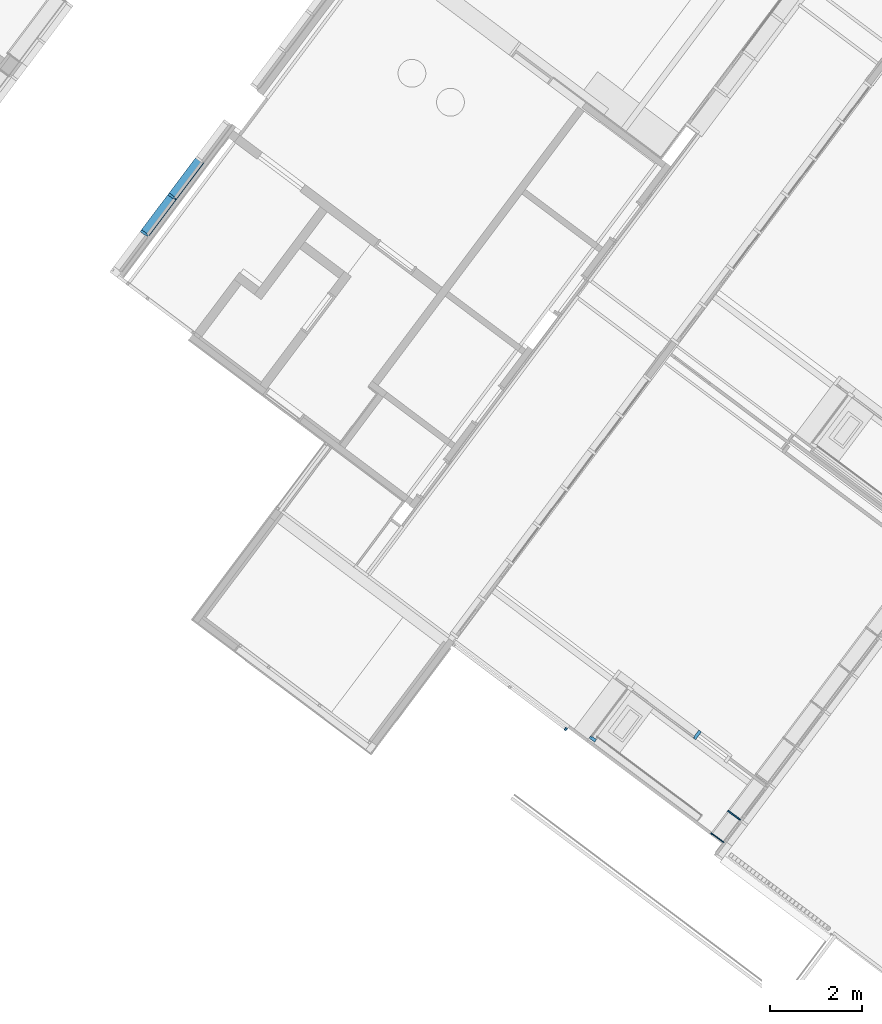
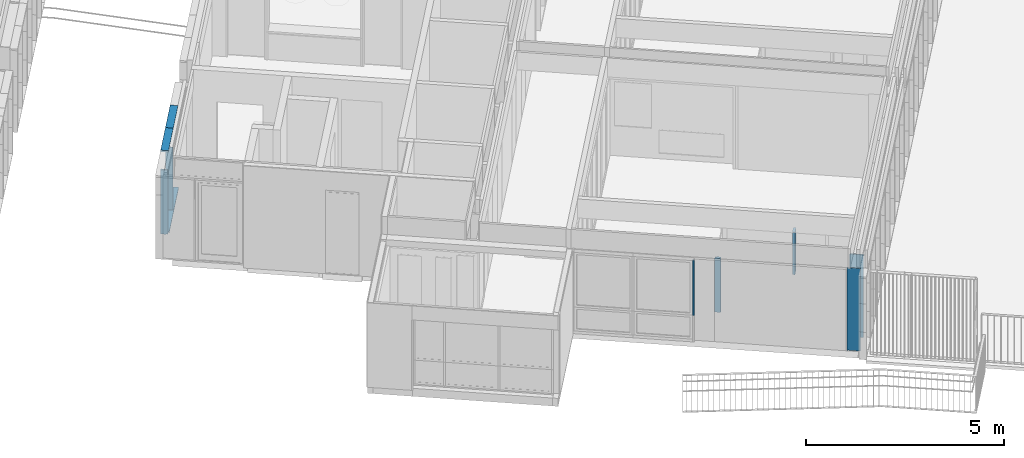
# One storey, part 9 of 243: 11 members, 5 elements without a shape of their own.
"""IFC2X3 building model written with IfcOpenShell, lengths in metres."""

from ifc_helpers import new_model, entity, si_unit, converted_unit, derived_unit, direction, frame, frame_2d, origin, place, context, subcontext, project, spatial, polyline, circle_curve, parameter, trimmed, segment, composite_curve, rectangle, outline, extrude, source, transform, mapped, material, type_object, type_shapes, element, aggregate, save


model = new_model("IFC2X3")

# Units and contexts
model_context = context("Model", 3, precision=1e-05, world=origin(), true_north=direction((6.123031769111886e-17, 1.0)))
body_context = subcontext(model_context, "Body", "Model", "MODEL_VIEW")
ifc_project = project(units=[si_unit("LENGTHUNIT", "METRE"), si_unit("AREAUNIT", "SQUARE_METRE"), si_unit("VOLUMEUNIT", "CUBIC_METRE"), converted_unit("PLANEANGLEUNIT", "DEGREE", entity("IfcRatioMeasure", 0.017453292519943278), si_unit("PLANEANGLEUNIT", "RADIAN"), dimensions=[0, 0, 0, 0, 0, 0, 0]), si_unit("MASSUNIT", "GRAM", prefix="KILO"), derived_unit("MASSDENSITYUNIT", [(si_unit("MASSUNIT", "GRAM", prefix="KILO"), 1), (si_unit("LENGTHUNIT", "METRE"), -3)]), derived_unit("IONCONCENTRATIONUNIT", [(si_unit("MASSUNIT", "GRAM", prefix="KILO"), 1), (si_unit("LENGTHUNIT", "METRE"), -3)]), derived_unit("MOMENTOFINERTIAUNIT", [(si_unit("LENGTHUNIT", "METRE"), 4)]), si_unit("TIMEUNIT", "SECOND"), si_unit("FREQUENCYUNIT", "HERTZ"), si_unit("THERMODYNAMICTEMPERATUREUNIT", "DEGREE_CELSIUS"), derived_unit("THERMALTRANSMITTANCEUNIT", [(si_unit("MASSUNIT", "GRAM", prefix="KILO"), 1), (si_unit("THERMODYNAMICTEMPERATUREUNIT", "KELVIN"), -1), (si_unit("TIMEUNIT", "SECOND"), -3)]), derived_unit("THERMALCONDUCTANCEUNIT", [(si_unit("MASSUNIT", "GRAM", prefix="KILO"), 1), (si_unit("THERMODYNAMICTEMPERATUREUNIT", "KELVIN"), -1), (si_unit("TIMEUNIT", "SECOND"), -3), (si_unit("LENGTHUNIT", "METRE"), 1)]), derived_unit("VOLUMETRICFLOWRATEUNIT", [(si_unit("LENGTHUNIT", "METRE"), 3), (si_unit("TIMEUNIT", "SECOND"), -1)]), derived_unit("MASSFLOWRATEUNIT", [(si_unit("MASSUNIT", "GRAM", prefix="KILO"), 1), (si_unit("TIMEUNIT", "SECOND"), -1)]), derived_unit("ROTATIONALFREQUENCYUNIT", [(si_unit("TIMEUNIT", "SECOND"), -1)]), si_unit("ELECTRICCURRENTUNIT", "AMPERE"), si_unit("ELECTRICVOLTAGEUNIT", "VOLT"), si_unit("POWERUNIT", "WATT"), si_unit("FORCEUNIT", "NEWTON", prefix="KILO"), si_unit("ILLUMINANCEUNIT", "LUX"), si_unit("LUMINOUSFLUXUNIT", "LUMEN"), si_unit("LUMINOUSINTENSITYUNIT", "CANDELA"), derived_unit("USERDEFINED", [(si_unit("MASSUNIT", "GRAM", prefix="KILO"), -1), (si_unit("LENGTHUNIT", "METRE"), -2), (si_unit("TIMEUNIT", "SECOND"), 3), (si_unit("LUMINOUSFLUXUNIT", "LUMEN"), 1)]), derived_unit("USERDEFINED", [(si_unit("MASSUNIT", "GRAM", prefix="KILO"), 1), (si_unit("TIMEUNIT", "SECOND"), -3), (si_unit("LENGTHUNIT", "METRE"), 3), (si_unit("ELECTRICCURRENTUNIT", "AMPERE"), -2)]), derived_unit("SOUNDPOWERUNIT", [(si_unit("MASSUNIT", "GRAM", prefix="KILO"), 1), (si_unit("TIMEUNIT", "SECOND"), -3), (si_unit("LENGTHUNIT", "METRE"), 2)]), derived_unit("SOUNDPRESSUREUNIT", [(si_unit("MASSUNIT", "GRAM", prefix="KILO"), 1), (si_unit("LENGTHUNIT", "METRE"), -1), (si_unit("TIMEUNIT", "SECOND"), -2)]), derived_unit("LINEARVELOCITYUNIT", [(si_unit("LENGTHUNIT", "METRE"), 1), (si_unit("TIMEUNIT", "SECOND"), -1)]), si_unit("PRESSUREUNIT", "PASCAL"), derived_unit("USERDEFINED", [(si_unit("MASSUNIT", "GRAM", prefix="KILO"), 1), (si_unit("LENGTHUNIT", "METRE"), -2), (si_unit("TIMEUNIT", "SECOND"), -2)]), derived_unit("LINEARFORCEUNIT", [(si_unit("MASSUNIT", "GRAM", prefix="KILO"), 1), (si_unit("TIMEUNIT", "SECOND"), -2)]), derived_unit("PLANARFORCEUNIT", [(si_unit("MASSUNIT", "GRAM", prefix="KILO"), 1), (si_unit("LENGTHUNIT", "METRE"), -1), (si_unit("TIMEUNIT", "SECOND"), -2)]), derived_unit("SPECIFICHEATCAPACITYUNIT", [(si_unit("THERMODYNAMICTEMPERATUREUNIT", "KELVIN"), -1), (si_unit("LENGTHUNIT", "METRE"), 2), (si_unit("TIMEUNIT", "SECOND"), -2)]), derived_unit("HEATINGVALUEUNIT", [(si_unit("LENGTHUNIT", "METRE"), 2), (si_unit("TIMEUNIT", "SECOND"), -2)]), derived_unit("VAPORPERMEABILITYUNIT", [(si_unit("LENGTHUNIT", "METRE"), -1), (si_unit("TIMEUNIT", "SECOND"), 1)]), derived_unit("DYNAMICVISCOSITYUNIT", [(si_unit("MASSUNIT", "GRAM", prefix="KILO"), 1), (si_unit("TIMEUNIT", "SECOND"), -1), (si_unit("LENGTHUNIT", "METRE"), -1)]), derived_unit("THERMALEXPANSIONCOEFFICIENTUNIT", [(si_unit("THERMODYNAMICTEMPERATUREUNIT", "KELVIN"), -1)]), derived_unit("MODULUSOFELASTICITYUNIT", [(si_unit("MASSUNIT", "GRAM", prefix="KILO"), 1), (si_unit("LENGTHUNIT", "METRE"), -1), (si_unit("TIMEUNIT", "SECOND"), -2)]), derived_unit("ISOTHERMALMOISTURECAPACITYUNIT", [(si_unit("LENGTHUNIT", "METRE"), 3), (si_unit("MASSUNIT", "GRAM", prefix="KILO"), -1)]), derived_unit("MOISTUREDIFFUSIVITYUNIT", [(si_unit("TIMEUNIT", "SECOND"), -1), (si_unit("LENGTHUNIT", "METRE"), 2)])], contexts=[model_context])

# Site, building, storey
site_placement = place(None, frame((0.0, 0.0, 235.0), z_axis=(0.0, 0.0, 1.0), x_axis=(-0.7996477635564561, 0.6004693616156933, 0.0)))
site = spatial("IfcSite", under=ifc_project, at=site_placement, Name="Default", CompositionType="ELEMENT")
building_placement = place(site_placement, origin())
building = spatial("IfcBuilding", under=site, at=building_placement, CompositionType="ELEMENT")
storey_placement = place(building_placement, origin())
storey = spatial("IfcBuildingStorey", under=building, at=storey_placement, Name="P0- Escola", CompositionType="ELEMENT", Elevation=0.0)

# Curtain wall, member
curtain_wall_type_1 = type_object("IfcCurtainWallType", Name="Muro cortina:MC- INT- k1", PredefinedType="NOTDEFINED")
curtain_wall_1_placement = place(storey_placement, origin())
curtain_wall_1 = element("IfcCurtainWall", 1, at=curtain_wall_1_placement, inside=storey, type_object=curtain_wall_type_1, Name="Muro cortina:MC- INT- k1", ObjectType="Muro cortina:MC- INT- k1")
ifc_material_1 = material(Name="_Fusta massisa- T1")
member_type_1 = type_object("IfcMemberType", Name="Montante rectangular:MC- Fusta- 21,4x7 cm- Esquerra- Bany infantil", PredefinedType="MULLION", material=ifc_material_1)
shared_shape_1 = source(origin(), body_context, "Body", "SweptSolid", [
    extrude(outline(polyline([(-0.06649999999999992, -0.02249999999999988), (-0.05049999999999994, -0.02249999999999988), (-0.050499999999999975, -0.0024999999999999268), (-0.030499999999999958, -0.002499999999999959), (-0.030499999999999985, -0.022499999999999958), (0.14749999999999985, -0.022500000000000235), (0.14749999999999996, 0.04749999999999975), (-0.06650000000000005, 0.04750000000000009), (-0.06649999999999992, -0.02249999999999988)])), frame((-0.012500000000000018, -0.04049999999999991, -1.304999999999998), z_axis=(0.0, 0.0, 1.0), x_axis=(0.0, -1.0, 0.0)), (0.0, 0.0, 1.0), 1.304999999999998),
])
type_shapes(member_type_1, [shared_shape_1])
member_1_placement = place(curtain_wall_1_placement, frame((7.804147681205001, -19.827191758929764, 1.2000000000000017), z_axis=(0.0, 0.0, -1.0), x_axis=(-1.0, 0.0, 0.0)))
member_1 = element("IfcMember", 2, at=member_1_placement, type_object=member_type_1, material=ifc_material_1, Name="Montante rectangular:MC- Fusta- 21,4x7 cm- Esquerra- Bany infantil", ObjectType="Montante rectangular:MC- Fusta- 21,4x7 cm- Esquerra- Bany infantil", context=body_context, shape_type="MappedRepresentation", body=[
    mapped(shared_shape_1, transform((0.0, 0.0, 0.0), scale=1.0)),
])
aggregate(curtain_wall_1, [member_1])

curtain_wall_type_2 = type_object("IfcCurtainWallType", Name="Muro cortina:MC- INT- k1", PredefinedType="NOTDEFINED")
curtain_wall_2_placement = place(storey_placement, origin())
curtain_wall_2 = element("IfcCurtainWall", 3, at=curtain_wall_2_placement, inside=storey, type_object=curtain_wall_type_2, Name="Muro cortina:MC- INT- k1", ObjectType="Muro cortina:MC- INT- k1")
member_type_2 = type_object("IfcMemberType", Name="Montante rectangular:MC- Fusta- 15x7- Esquerra", PredefinedType="MULLION", material=ifc_material_1)
shared_shape_2 = source(origin(), body_context, "Body", "SweptSolid", [
    extrude(outline(polyline([(-0.050499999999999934, -0.0224999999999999), (-0.034499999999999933, -0.0224999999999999), (-0.03449999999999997, -0.0024999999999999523), (-0.014499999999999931, -0.0024999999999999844), (-0.014499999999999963, -0.022499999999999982), (0.09949999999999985, -0.02250000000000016), (0.09949999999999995, 0.04749999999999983), (-0.05050000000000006, 0.04750000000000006), (-0.050499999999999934, -0.0224999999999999)])), frame((-0.04749999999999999, -0.024499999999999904, -1.665), z_axis=(0.0, 0.0, 1.0), x_axis=(0.0, -1.0, 0.0)), (0.0, 0.0, 1.0), 1.6649999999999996),
])
type_shapes(member_type_2, [shared_shape_2])
member_2_placement = place(curtain_wall_2_placement, frame((9.619147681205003, -18.440191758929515, 0.8399999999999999), z_axis=(0.0, 0.0, -1.0), x_axis=(0.0, 1.0, 0.0)))
member_2 = element("IfcMember", 4, at=member_2_placement, type_object=member_type_2, material=ifc_material_1, Name="Montante rectangular:MC- Fusta- 15x7- Esquerra", ObjectType="Montante rectangular:MC- Fusta- 15x7- Esquerra", context=body_context, shape_type="MappedRepresentation", body=[
    mapped(shared_shape_2, transform((0.0, 0.0, 0.0), scale=1.0)),
])
aggregate(curtain_wall_2, [member_2])

# Curtain wall, members
curtain_wall_type_3 = type_object("IfcCurtainWallType", Name="Muro cortina:MC- INT- k7- Aules infantil", PredefinedType="NOTDEFINED")
curtain_wall_3_placement = place(storey_placement, origin())
curtain_wall_3 = element("IfcCurtainWall", 5, at=curtain_wall_3_placement, inside=storey, type_object=curtain_wall_type_3, Name="Muro cortina:MC- INT- k7- Aules infantil", ObjectType="Muro cortina:MC- INT- k7- Aules infantil")
member_type_3 = type_object("IfcMemberType", Name="Montante rectangular:MC- Fusta- 35x3 cm- Pati aules- Remat esquerra", PredefinedType="MULLION", material=ifc_material_1)
shared_shape_3 = source(origin(), body_context, "Body", "SweptSolid", [
    extrude(outline(polyline([(-0.22000000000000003, -0.01666666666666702), (0.12500000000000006, -0.01666666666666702), (0.12499999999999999, 0.013333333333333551), (0.09500000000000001, 0.013333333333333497), (0.09499999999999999, 0.003333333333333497), (-0.22, 0.003333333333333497), (-0.22000000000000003, -0.01666666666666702)])), frame((-0.013333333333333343, 0.030000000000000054, -2.5399999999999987), z_axis=(0.0, 0.0, 1.0), x_axis=(0.0, -1.0, 0.0)), (0.0, 0.0, 1.0), 2.5399999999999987),
])
type_shapes(member_type_3, [shared_shape_3])
member_3_placement = place(curtain_wall_3_placement, frame((6.185147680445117, -18.362691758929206, 2.5399999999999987), z_axis=(0.0, 0.0, 1.0), x_axis=(0.0, 1.0, 0.0)))
member_3 = element("IfcMember", 6, at=member_3_placement, type_object=member_type_3, material=ifc_material_1, Name="Montante rectangular:MC- Fusta- 35x3 cm- Pati aules- Remat esquerra", ObjectType="Montante rectangular:MC- Fusta- 35x3 cm- Pati aules- Remat esquerra", context=body_context, shape_type="MappedRepresentation", body=[
    mapped(shared_shape_3, transform((0.0, 0.0, 0.0), scale=1.0)),
])
member_type_4 = type_object("IfcMemberType", Name="Montante rectangular:MC- Fusta- 35x3 cm- Centre", PredefinedType="MULLION", material=ifc_material_1)
shared_shape_4 = source(origin(), body_context, "Body", "SweptSolid", [
    extrude(rectangle(XDim=0.3450000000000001, YDim=0.030000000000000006, at=frame_2d((0.0, 1.3964523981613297e-16), x_axis=(1.0, 0.0))), frame((0.0, 0.07750000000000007, -2.5399999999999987), z_axis=(0.0, 0.0, 1.0), x_axis=(0.0, -1.0, 0.0)), (0.0, 0.0, 1.0), 2.5399999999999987),
])
type_shapes(member_type_4, [shared_shape_4])
member_4_placement = place(curtain_wall_3_placement, frame((6.185147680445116, -18.990191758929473, 0.0), z_axis=(0.0, 0.0, -1.0), x_axis=(0.0, -1.0, 0.0)))
member_4 = element("IfcMember", 7, at=member_4_placement, type_object=member_type_4, material=ifc_material_1, Name="Montante rectangular:MC- Fusta- 35x3 cm- Centre", ObjectType="Montante rectangular:MC- Fusta- 35x3 cm- Centre", context=body_context, shape_type="MappedRepresentation", body=[
    mapped(shared_shape_4, transform((0.0, 0.0, 0.0), scale=1.0)),
])
aggregate(curtain_wall_3, [member_3, member_4])

curtain_wall_type_4 = type_object("IfcCurtainWallType", Name="Muro cortina:MC- EXT- MC2", PredefinedType="NOTDEFINED")
curtain_wall_4_placement = place(storey_placement, origin())
curtain_wall_4 = element("IfcCurtainWall", 8, at=curtain_wall_4_placement, inside=storey, type_object=curtain_wall_type_4, Name="Muro cortina:MC- EXT- MC2", ObjectType="Muro cortina:MC- EXT- MC2")
ifc_material_2 = material(Name="_Alumini- T1- Perfil")
member_type_5 = type_object("IfcMemberType", Name="Montante rectangular:MC- Alu- 140x52,5 cm- Fa patis- inferior", PredefinedType="MULLION", material=ifc_material_2)
shared_shape_5 = source(origin(), body_context, "Body", "SweptSolid", [
    extrude(outline(composite_curve([segment(polyline([(-0.144167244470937, -0.025867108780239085), (-0.12786724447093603, -0.02586710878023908)]), True, "CONTINUOUS"), segment(polyline([(-0.12786724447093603, -0.02586710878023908), (-0.12786724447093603, -0.023167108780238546)]), True, "CONTINUOUS"), segment(polyline([(-0.12786724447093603, -0.023167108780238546), (-0.0678672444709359, -0.023167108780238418)]), True, "CONTINUOUS"), segment(polyline([(-0.0678672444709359, -0.023167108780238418), (0.07031215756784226, -0.010722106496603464)]), True, "CONTINUOUS"), segment(trimmed(circle_curve(frame_2d((0.07013275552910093, -0.008730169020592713), x_axis=(0.0897010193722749, -0.9959687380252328)), 0.0019999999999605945), [parameter(0.0)], [parameter(84.8535928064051)], True, "PARAMETER"), True, "CONTINUOUS"), segment(polyline([(0.07213275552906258, -0.008730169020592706), (0.07213275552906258, 0.006266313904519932)]), True, "CONTINUOUS"), segment(trimmed(circle_curve(frame_2d((0.07013275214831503, 0.006266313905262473), x_axis=(1.0, 0.0)), 0.0020000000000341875), [parameter(0.0)], [parameter(90.00000002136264)], True, "PARAMETER"), True, "CONTINUOUS"), segment(polyline([(0.070132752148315, 0.008266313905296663), (0.06213275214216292, 0.008266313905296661)]), True, "CONTINUOUS"), segment(polyline([(0.06213275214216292, 0.008266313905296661), (0.06213275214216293, 0.006266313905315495)]), True, "CONTINUOUS"), segment(polyline([(0.06213275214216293, 0.006266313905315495), (0.06963275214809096, 0.006266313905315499)]), True, "CONTINUOUS"), segment(trimmed(circle_curve(frame_2d((0.06963275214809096, 0.005766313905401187), x_axis=(0.0, 1.0)), 0.0004999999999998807), [parameter(269.9999999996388)], [parameter(0.0)], True, "PARAMETER"), False, "CONTINUOUS"), segment(polyline([(0.07013275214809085, 0.005766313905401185), (0.07013275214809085, -0.008730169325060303)]), True, "CONTINUOUS"), segment(polyline([(0.07013275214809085, -0.008730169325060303), (0.03213275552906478, -0.012152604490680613)]), True, "CONTINUOUS"), segment(polyline([(0.03213275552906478, -0.0121526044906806), (0.03213275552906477, 0.029132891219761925)]), True, "CONTINUOUS"), segment(polyline([(0.03213275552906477, 0.029132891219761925), (0.0021327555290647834, 0.029132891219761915)]), True, "CONTINUOUS"), segment(polyline([(0.0021327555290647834, 0.029132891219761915), (0.0021327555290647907, 0.02713289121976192)]), True, "CONTINUOUS"), segment(polyline([(0.0021327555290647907, 0.02713289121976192), (0.03013275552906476, 0.02713289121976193)]), True, "CONTINUOUS"), segment(polyline([(0.03013275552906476, 0.027132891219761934), (0.03013275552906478, -0.012332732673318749)]), True, "CONTINUOUS"), segment(polyline([(0.03013275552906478, -0.012332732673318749), (-0.06786724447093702, -0.021159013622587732)]), True, "CONTINUOUS"), segment(polyline([(-0.06786724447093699, -0.02115901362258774), (-0.067867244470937, 0.009132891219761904)]), True, "CONTINUOUS"), segment(polyline([(-0.06786724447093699, 0.009132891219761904), (-0.14416724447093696, 0.009132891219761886)]), True, "CONTINUOUS"), segment(polyline([(-0.14416724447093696, 0.009132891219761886), (-0.144167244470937, -0.025867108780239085)]), True, "CONTINUOUS")], self_intersect=False)), frame((-0.029132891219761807, -0.06786724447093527, -0.9737499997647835), z_axis=(0.0, 0.0, 1.0), x_axis=(0.0, -1.0, 0.0)), (0.0, 0.0, 1.0), 0.9737499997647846),
])
type_shapes(member_type_5, [shared_shape_5])
member_5_placement = place(curtain_wall_4_placement, frame((23.945147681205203, -21.441441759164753, -0.02), z_axis=(0.0, 1.0, 0.0), x_axis=(0.0, 0.0, -1.0)))
member_5 = element("IfcMember", 9, at=member_5_placement, type_object=member_type_5, material=ifc_material_2, Name="Montante rectangular:MC- Alu- 140x52,5 cm- Fa patis- inferior", ObjectType="Montante rectangular:MC- Alu- 140x52,5 cm- Fa patis- inferior", context=body_context, shape_type="MappedRepresentation", body=[
    mapped(shared_shape_5, transform((0.0, 0.0, 0.0), scale=1.0)),
])
member_type_6 = type_object("IfcMemberType", Name="Montante rectangular:MC- Alu- 140x52,5 cm- Fa patis- Superior", PredefinedType="MULLION", material=ifc_material_2)
shared_shape_6 = source(origin(), body_context, "Body", "SweptSolid", [
    extrude(outline(polyline([(-0.026333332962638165, -0.021249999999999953), (0.11366666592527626, -0.021249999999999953), (0.11366666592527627, 0.031250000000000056), (-0.08733333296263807, 0.03125000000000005), (-0.0873333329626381, -0.010000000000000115), (-0.026333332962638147, -0.010000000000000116), (-0.026333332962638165, -0.021249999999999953)])), frame((-0.031250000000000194, -0.02733333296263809, -1.0), z_axis=(0.0, 0.0, 1.0), x_axis=(0.0, -1.0, 0.0)), (0.0, 0.0, 1.0), 1.0000000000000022),
])
type_shapes(member_type_6, [shared_shape_6])
member_6_placement = place(curtain_wall_4_placement, frame((23.945147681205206, -22.415191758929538, 2.545), z_axis=(0.0, -1.0, 0.0), x_axis=(0.0, 0.0, 1.0)))
member_6 = element("IfcMember", 10, at=member_6_placement, type_object=member_type_6, material=ifc_material_2, Name="Montante rectangular:MC- Alu- 140x52,5 cm- Fa patis- Superior", ObjectType="Montante rectangular:MC- Alu- 140x52,5 cm- Fa patis- Superior", context=body_context, shape_type="MappedRepresentation", body=[
    mapped(shared_shape_6, transform((0.0, 0.0, 0.0), scale=1.0)),
])
member_7_placement = place(curtain_wall_4_placement, frame((23.945147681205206, -23.415191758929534, 2.545), z_axis=(0.0, -1.0, 0.0), x_axis=(0.0, 0.0, 1.0)))
member_7 = element("IfcMember", 11, at=member_7_placement, type_object=member_type_6, material=ifc_material_2, Name="Montante rectangular:MC- Alu- 140x52,5 cm- Fa patis- Superior", ObjectType="Montante rectangular:MC- Alu- 140x52,5 cm- Fa patis- Superior", context=body_context, shape_type="MappedRepresentation", body=[
    mapped(shared_shape_6, transform((0.0, 0.0, 0.0), scale=1.0)),
])
member_type_7 = type_object("IfcMemberType", Name="Montante rectangular:MC- Alu- 140x52,5 cm- Fa patis- inferior", PredefinedType="MULLION", material=ifc_material_2)
shared_shape_7 = source(origin(), body_context, "Body", "SweptSolid", [
    extrude(outline(composite_curve([segment(polyline([(-0.144167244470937, -0.02586710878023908), (-0.12786724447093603, -0.025867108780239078)]), True, "CONTINUOUS"), segment(polyline([(-0.12786724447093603, -0.025867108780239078), (-0.12786724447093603, -0.023167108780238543)]), True, "CONTINUOUS"), segment(polyline([(-0.12786724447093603, -0.023167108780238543), (-0.0678672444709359, -0.023167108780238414)]), True, "CONTINUOUS"), segment(polyline([(-0.0678672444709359, -0.023167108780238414), (0.07031215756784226, -0.01072210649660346)]), True, "CONTINUOUS"), segment(trimmed(circle_curve(frame_2d((0.07013275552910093, -0.00873016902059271), x_axis=(0.0897010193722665, -0.9959687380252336)), 0.0019999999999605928), [parameter(0.0)], [parameter(84.85359280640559)], True, "PARAMETER"), True, "CONTINUOUS"), segment(polyline([(0.07213275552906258, -0.008730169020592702), (0.07213275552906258, 0.006266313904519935)]), True, "CONTINUOUS"), segment(trimmed(circle_curve(frame_2d((0.070132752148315, 0.0062663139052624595), x_axis=(1.0, 0.0)), 0.0020000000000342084), [parameter(0.0)], [parameter(90.00000002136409)], True, "PARAMETER"), True, "CONTINUOUS"), segment(polyline([(0.070132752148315, 0.008266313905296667), (0.06213275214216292, 0.008266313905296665)]), True, "CONTINUOUS"), segment(polyline([(0.06213275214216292, 0.008266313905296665), (0.06213275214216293, 0.006266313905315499)]), True, "CONTINUOUS"), segment(polyline([(0.06213275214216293, 0.006266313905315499), (0.06963275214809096, 0.006266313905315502)]), True, "CONTINUOUS"), segment(trimmed(circle_curve(frame_2d((0.06963275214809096, 0.005766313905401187), x_axis=(0.0, 1.0)), 0.000499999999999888), [parameter(269.9999999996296)], [parameter(0.0)], True, "PARAMETER"), False, "CONTINUOUS"), segment(polyline([(0.07013275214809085, 0.005766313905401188), (0.07013275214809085, -0.0087301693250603)]), True, "CONTINUOUS"), segment(polyline([(0.07013275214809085, -0.0087301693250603), (0.03213275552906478, -0.01215260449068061)]), True, "CONTINUOUS"), segment(polyline([(0.03213275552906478, -0.012152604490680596), (0.03213275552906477, 0.02913289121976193)]), True, "CONTINUOUS"), segment(polyline([(0.03213275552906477, 0.02913289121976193), (0.0021327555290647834, 0.029132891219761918)]), True, "CONTINUOUS"), segment(polyline([(0.0021327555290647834, 0.029132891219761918), (0.0021327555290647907, 0.027132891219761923)]), True, "CONTINUOUS"), segment(polyline([(0.0021327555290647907, 0.027132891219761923), (0.03013275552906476, 0.027132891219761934)]), True, "CONTINUOUS"), segment(polyline([(0.03013275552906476, 0.027132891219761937), (0.03013275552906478, -0.012332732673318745)]), True, "CONTINUOUS"), segment(polyline([(0.03013275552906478, -0.012332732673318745), (-0.06786724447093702, -0.02115901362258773)]), True, "CONTINUOUS"), segment(polyline([(-0.06786724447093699, -0.021159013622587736), (-0.067867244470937, 0.009132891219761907)]), True, "CONTINUOUS"), segment(polyline([(-0.06786724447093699, 0.009132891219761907), (-0.14416724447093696, 0.00913289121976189)]), True, "CONTINUOUS"), segment(polyline([(-0.14416724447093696, 0.00913289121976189), (-0.144167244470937, -0.02586710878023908)]), True, "CONTINUOUS")], self_intersect=False)), frame((-0.02913289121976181, -0.06786724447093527, -1.0), z_axis=(0.0, 0.0, 1.0), x_axis=(0.0, -1.0, 0.0)), (0.0, 0.0, 1.0), 0.9999999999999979),
])
type_shapes(member_type_7, [shared_shape_7])
member_8_placement = place(curtain_wall_4_placement, frame((23.945147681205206, -22.415191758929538, -0.02), z_axis=(0.0, 1.0, 0.0), x_axis=(0.0, 0.0, -1.0)))
member_8 = element("IfcMember", 12, at=member_8_placement, type_object=member_type_7, material=ifc_material_2, Name="Montante rectangular:MC- Alu- 140x52,5 cm- Fa patis- inferior", ObjectType="Montante rectangular:MC- Alu- 140x52,5 cm- Fa patis- inferior", context=body_context, shape_type="MappedRepresentation", body=[
    mapped(shared_shape_7, transform((0.0, 0.0, 0.0), scale=1.0)),
])
member_type_8 = type_object("IfcMemberType", Name="Montante rectangular:MC- Alu- 140x52,5 cm- Fa patis- Centre", PredefinedType="MULLION", material=ifc_material_2)
shared_shape_8 = source(origin(), body_context, "Body", "SweptSolid", [
    extrude(outline(polyline([(-0.021999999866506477, -0.026250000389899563), (0.11699999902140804, -0.026250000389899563), (0.11699999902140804, 0.026250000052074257), (-0.02200000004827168, 0.026250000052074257), (-0.02200000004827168, 0.015000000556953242), (-0.07299999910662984, 0.015000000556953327), (-0.07299999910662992, -0.01500000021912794), (-0.021999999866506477, -0.01500000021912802), (-0.021999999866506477, -0.026250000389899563)])), frame((0.0, -0.022999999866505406, -1.9749999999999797), z_axis=(0.0, 0.0, 1.0), x_axis=(0.0, -1.0, 0.0)), (0.0, 0.0, 1.0), 1.9749999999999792),
])
type_shapes(member_type_8, [shared_shape_8])
member_9_placement = place(curtain_wall_4_placement, frame((23.945147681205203, -21.415191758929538, -0.02), z_axis=(0.0, 0.0, -1.0), x_axis=(0.0, -1.0, 0.0)))
member_9 = element("IfcMember", 13, at=member_9_placement, type_object=member_type_8, material=ifc_material_2, Name="Montante rectangular:MC- Alu- 140x52,5 cm- Fa patis- Centre", ObjectType="Montante rectangular:MC- Alu- 140x52,5 cm- Fa patis- Centre", context=body_context, shape_type="MappedRepresentation", body=[
    mapped(shared_shape_8, transform((0.0, 0.0, 0.0), scale=1.0)),
])
member_type_9 = type_object("IfcMemberType", Name="Montante rectangular:MC- Alu- 140x52,5 cm- Fa patis- Centre", PredefinedType="MULLION", material=ifc_material_2)
shared_shape_9 = source(origin(), body_context, "Body", "SweptSolid", [
    extrude(outline(polyline([(-0.021999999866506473, -0.026250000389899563), (0.11699999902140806, -0.026250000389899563), (0.11699999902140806, 0.026250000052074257), (-0.022000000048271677, 0.026250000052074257), (-0.022000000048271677, 0.015000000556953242), (-0.07299999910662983, 0.015000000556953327), (-0.07299999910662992, -0.01500000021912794), (-0.021999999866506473, -0.01500000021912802), (-0.021999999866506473, -0.026250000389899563)])), frame((0.0, -0.022999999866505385, -1.919999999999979), z_axis=(0.0, 0.0, 1.0), x_axis=(0.0, -1.0, 0.0)), (0.0, 0.0, 1.0), 1.9199999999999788),
])
type_shapes(member_type_9, [shared_shape_9])
member_10_placement = place(curtain_wall_4_placement, frame((23.945147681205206, -22.415191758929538, 0.035000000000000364), z_axis=(0.0, 0.0, -1.0), x_axis=(0.0, -1.0, 0.0)))
member_10 = element("IfcMember", 14, at=member_10_placement, type_object=member_type_9, material=ifc_material_2, Name="Montante rectangular:MC- Alu- 140x52,5 cm- Fa patis- Centre", ObjectType="Montante rectangular:MC- Alu- 140x52,5 cm- Fa patis- Centre", context=body_context, shape_type="MappedRepresentation", body=[
    mapped(shared_shape_9, transform((0.0, 0.0, 0.0), scale=1.0)),
])
aggregate(curtain_wall_4, [member_5, member_9, member_6, member_8, member_10, member_7])

# Curtain wall, member
curtain_wall_type_5 = type_object("IfcCurtainWallType", Name="Muro cortina:MC- EXT- AL3", PredefinedType="NOTDEFINED")
curtain_wall_5_placement = place(storey_placement, origin())
curtain_wall_5 = element("IfcCurtainWall", 15, at=curtain_wall_5_placement, inside=storey, type_object=curtain_wall_type_5, Name="Muro cortina:MC- EXT- AL3", ObjectType="Muro cortina:MC- EXT- AL3")
member_type_10 = type_object("IfcMemberType", Name="Montante rectangular:MC- Alu- 50x60 cm- Fa pista- Centre", PredefinedType="MULLION", material=ifc_material_2)
shared_shape_10 = source(origin(), body_context, "Body", "SweptSolid", [
    extrude(rectangle(XDim=0.0600000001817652, YDim=0.05, at=frame_2d((-8.673617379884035e-18, 0.0), x_axis=(1.0, 0.0))), frame((-0.025, -0.030000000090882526, -1.6825000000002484), z_axis=(0.0, 0.0, 1.0), x_axis=(0.0, -1.0, 0.0)), (0.0, 0.0, 1.0), 1.6825000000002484),
])
type_shapes(member_type_10, [shared_shape_10])
member_11_placement = place(curtain_wall_5_placement, frame((10.145147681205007, -18.321991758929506, 2.502500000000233), z_axis=(0.0, 0.0, 1.0), x_axis=(-1.0, 0.0, 0.0)))
member_11 = element("IfcMember", 16, at=member_11_placement, type_object=member_type_10, material=ifc_material_2, Name="Montante rectangular:MC- Alu- 50x60 cm- Fa pista- Centre", ObjectType="Montante rectangular:MC- Alu- 50x60 cm- Fa pista- Centre", context=body_context, shape_type="MappedRepresentation", body=[
    mapped(shared_shape_10, transform((0.0, 0.0, 0.0), scale=1.0)),
])
aggregate(curtain_wall_5, [member_11])

save(model, "model.ifc")
